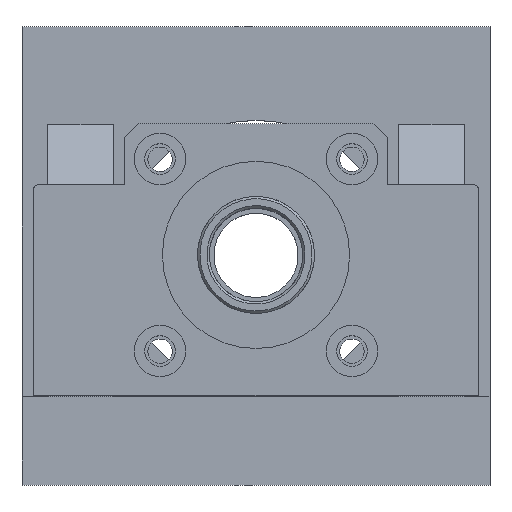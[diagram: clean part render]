
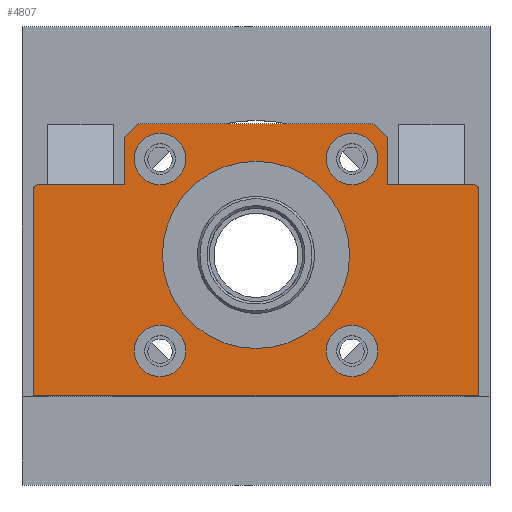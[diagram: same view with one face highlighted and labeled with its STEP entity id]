
A CAD part, top view. The second image highlights one B-rep face of the part: STEP entity #4807.
In plain terms, the highlighted planar face has unit normal (0, 0, 1).
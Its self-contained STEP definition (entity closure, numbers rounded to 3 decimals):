
#2599=DIRECTION('',(1.,0.,0.));
#2600=VECTOR('',#2599,18.5);
#2601=CARTESIAN_POINT('',(-46.5,15.,252.));
#2602=LINE('',#2601,#2600);
#2603=DIRECTION('',(0.,1.,0.));
#2604=VECTOR('',#2603,10.);
#2605=CARTESIAN_POINT('',(-28.,15.,252.));
#2606=LINE('',#2605,#2604);
#2607=DIRECTION('',(0.707,0.707,0.));
#2608=VECTOR('',#2607,4.243);
#2609=CARTESIAN_POINT('',(-28.,25.,252.));
#2610=LINE('',#2609,#2608);
#2611=DIRECTION('',(1.,0.,0.));
#2612=VECTOR('',#2611,50.);
#2613=CARTESIAN_POINT('',(-25.,28.,252.));
#2614=LINE('',#2613,#2612);
#2615=DIRECTION('',(0.707,-0.707,0.));
#2616=VECTOR('',#2615,4.243);
#2617=CARTESIAN_POINT('',(25.,28.,252.));
#2618=LINE('',#2617,#2616);
#2619=DIRECTION('',(0.,-1.,0.));
#2620=VECTOR('',#2619,10.);
#2621=CARTESIAN_POINT('',(28.,25.,252.));
#2622=LINE('',#2621,#2620);
#2623=DIRECTION('',(1.,0.,0.));
#2624=VECTOR('',#2623,18.5);
#2625=CARTESIAN_POINT('',(28.,15.,252.));
#2626=LINE('',#2625,#2624);
#2627=CARTESIAN_POINT('',(46.5,14.,252.));
#2628=DIRECTION('',(0.,0.,-1.));
#2629=DIRECTION('',(0.,1.,0.));
#2630=AXIS2_PLACEMENT_3D('',#2627,#2628,#2629);
#2632=DIRECTION('',(0.,-1.,0.));
#2633=VECTOR('',#2632,44.);
#2634=CARTESIAN_POINT('',(47.5,14.,252.));
#2635=LINE('',#2634,#2633);
#2636=DIRECTION('',(-1.,0.,0.));
#2637=VECTOR('',#2636,95.);
#2638=CARTESIAN_POINT('',(47.5,-30.,252.));
#2639=LINE('',#2638,#2637);
#2640=DIRECTION('',(0.,1.,0.));
#2641=VECTOR('',#2640,44.);
#2642=CARTESIAN_POINT('',(-47.5,-30.,252.));
#2643=LINE('',#2642,#2641);
#2644=CARTESIAN_POINT('',(-46.5,14.,252.));
#2645=DIRECTION('',(0.,0.,-1.));
#2646=DIRECTION('',(-1.,0.,0.));
#2647=AXIS2_PLACEMENT_3D('',#2644,#2645,#2646);
#2649=CARTESIAN_POINT('',(-20.506,-20.506,252.));
#2650=DIRECTION('',(0.,0.,1.));
#2651=DIRECTION('',(-1.,0.,0.));
#2652=AXIS2_PLACEMENT_3D('',#2649,#2650,#2651);
#2654=CARTESIAN_POINT('',(-20.506,-20.506,252.));
#2655=DIRECTION('',(0.,0.,1.));
#2656=DIRECTION('',(1.,0.,0.));
#2657=AXIS2_PLACEMENT_3D('',#2654,#2655,#2656);
#2659=CARTESIAN_POINT('',(-20.506,20.506,252.));
#2660=DIRECTION('',(0.,0.,1.));
#2661=DIRECTION('',(-1.,0.,0.));
#2662=AXIS2_PLACEMENT_3D('',#2659,#2660,#2661);
#2664=CARTESIAN_POINT('',(-20.506,20.506,252.));
#2665=DIRECTION('',(0.,0.,1.));
#2666=DIRECTION('',(1.,0.,0.));
#2667=AXIS2_PLACEMENT_3D('',#2664,#2665,#2666);
#2669=CARTESIAN_POINT('',(20.506,-20.506,252.));
#2670=DIRECTION('',(0.,0.,1.));
#2671=DIRECTION('',(-1.,0.,0.));
#2672=AXIS2_PLACEMENT_3D('',#2669,#2670,#2671);
#2674=CARTESIAN_POINT('',(20.506,-20.506,252.));
#2675=DIRECTION('',(0.,0.,1.));
#2676=DIRECTION('',(1.,0.,0.));
#2677=AXIS2_PLACEMENT_3D('',#2674,#2675,#2676);
#2679=CARTESIAN_POINT('',(0.,0.,252.));
#2680=DIRECTION('',(0.,0.,1.));
#2681=DIRECTION('',(-1.,0.,0.));
#2682=AXIS2_PLACEMENT_3D('',#2679,#2680,#2681);
#2684=CARTESIAN_POINT('',(0.,0.,252.));
#2685=DIRECTION('',(0.,0.,1.));
#2686=DIRECTION('',(1.,0.,0.));
#2687=AXIS2_PLACEMENT_3D('',#2684,#2685,#2686);
#2689=CARTESIAN_POINT('',(20.506,20.506,252.));
#2690=DIRECTION('',(0.,0.,1.));
#2691=DIRECTION('',(-1.,0.,0.));
#2692=AXIS2_PLACEMENT_3D('',#2689,#2690,#2691);
#2694=CARTESIAN_POINT('',(20.506,20.506,252.));
#2695=DIRECTION('',(0.,0.,1.));
#2696=DIRECTION('',(1.,0.,0.));
#2697=AXIS2_PLACEMENT_3D('',#2694,#2695,#2696);
#3466=CARTESIAN_POINT('',(-47.5,-30.,252.));
#3467=VERTEX_POINT('',#3466);
#3468=CARTESIAN_POINT('',(47.5,-30.,252.));
#3469=VERTEX_POINT('',#3468);
#3676=CARTESIAN_POINT('',(47.5,14.,252.));
#3677=VERTEX_POINT('',#3676);
#3678=CARTESIAN_POINT('',(-46.5,15.,252.));
#3679=CARTESIAN_POINT('',(-28.,15.,252.));
#3680=VERTEX_POINT('',#3678);
#3681=VERTEX_POINT('',#3679);
#3682=CARTESIAN_POINT('',(-28.,25.,252.));
#3683=VERTEX_POINT('',#3682);
#3684=CARTESIAN_POINT('',(-25.,28.,252.));
#3685=VERTEX_POINT('',#3684);
#3686=CARTESIAN_POINT('',(25.,28.,252.));
#3687=VERTEX_POINT('',#3686);
#3688=CARTESIAN_POINT('',(28.,25.,252.));
#3689=VERTEX_POINT('',#3688);
#3690=CARTESIAN_POINT('',(28.,15.,252.));
#3691=VERTEX_POINT('',#3690);
#3692=CARTESIAN_POINT('',(46.5,15.,252.));
#3693=VERTEX_POINT('',#3692);
#3694=CARTESIAN_POINT('',(-47.5,14.,252.));
#3695=VERTEX_POINT('',#3694);
#3696=CARTESIAN_POINT('',(-26.006,-20.506,252.));
#3697=CARTESIAN_POINT('',(-15.006,-20.506,252.));
#3698=VERTEX_POINT('',#3696);
#3699=VERTEX_POINT('',#3697);
#3700=CARTESIAN_POINT('',(-26.006,20.506,252.));
#3701=CARTESIAN_POINT('',(-15.006,20.506,252.));
#3702=VERTEX_POINT('',#3700);
#3703=VERTEX_POINT('',#3701);
#3704=CARTESIAN_POINT('',(15.006,-20.506,252.));
#3705=CARTESIAN_POINT('',(26.006,-20.506,252.));
#3706=VERTEX_POINT('',#3704);
#3707=VERTEX_POINT('',#3705);
#3708=CARTESIAN_POINT('',(-20.,0.,252.));
#3709=CARTESIAN_POINT('',(20.,0.,252.));
#3710=VERTEX_POINT('',#3708);
#3711=VERTEX_POINT('',#3709);
#3712=CARTESIAN_POINT('',(15.006,20.506,252.));
#3713=CARTESIAN_POINT('',(26.006,20.506,252.));
#3714=VERTEX_POINT('',#3712);
#3715=VERTEX_POINT('',#3713);
#4748=CARTESIAN_POINT('',(0.,0.,252.));
#4749=DIRECTION('',(0.,0.,1.));
#4750=DIRECTION('',(-1.,0.,0.));
#4751=AXIS2_PLACEMENT_3D('',#4748,#4749,#4750);
#4752=PLANE('',#4751);
#4754=ORIENTED_EDGE('',*,*,#4753,.T.);
#4756=ORIENTED_EDGE('',*,*,#4755,.T.);
#4758=ORIENTED_EDGE('',*,*,#4757,.T.);
#4760=ORIENTED_EDGE('',*,*,#4759,.T.);
#4762=ORIENTED_EDGE('',*,*,#4761,.T.);
#4764=ORIENTED_EDGE('',*,*,#4763,.T.);
#4766=ORIENTED_EDGE('',*,*,#4765,.T.);
#4768=ORIENTED_EDGE('',*,*,#4767,.T.);
#4769=ORIENTED_EDGE('',*,*,#4741,.T.);
#4770=ORIENTED_EDGE('',*,*,#3953,.T.);
#4772=ORIENTED_EDGE('',*,*,#4771,.T.);
#4774=ORIENTED_EDGE('',*,*,#4773,.T.);
#4775=EDGE_LOOP('',(#4754,#4756,#4758,#4760,#4762,#4764,#4766,#4768,#4769,#4770,
#4772,#4774));
#4776=FACE_OUTER_BOUND('',#4775,.F.);
#4778=ORIENTED_EDGE('',*,*,#4777,.T.);
#4780=ORIENTED_EDGE('',*,*,#4779,.T.);
#4781=EDGE_LOOP('',(#4778,#4780));
#4782=FACE_BOUND('',#4781,.F.);
#4784=ORIENTED_EDGE('',*,*,#4783,.T.);
#4786=ORIENTED_EDGE('',*,*,#4785,.T.);
#4787=EDGE_LOOP('',(#4784,#4786));
#4788=FACE_BOUND('',#4787,.F.);
#4790=ORIENTED_EDGE('',*,*,#4789,.T.);
#4792=ORIENTED_EDGE('',*,*,#4791,.T.);
#4793=EDGE_LOOP('',(#4790,#4792));
#4794=FACE_BOUND('',#4793,.F.);
#4796=ORIENTED_EDGE('',*,*,#4795,.T.);
#4798=ORIENTED_EDGE('',*,*,#4797,.T.);
#4799=EDGE_LOOP('',(#4796,#4798));
#4800=FACE_BOUND('',#4799,.F.);
#4802=ORIENTED_EDGE('',*,*,#4801,.T.);
#4804=ORIENTED_EDGE('',*,*,#4803,.T.);
#4805=EDGE_LOOP('',(#4802,#4804));
#4806=FACE_BOUND('',#4805,.F.);
#2631=CIRCLE('',#2630,1.);
#2648=CIRCLE('',#2647,1.);
#2653=CIRCLE('',#2652,5.5);
#2658=CIRCLE('',#2657,5.5);
#2663=CIRCLE('',#2662,5.5);
#2668=CIRCLE('',#2667,5.5);
#2673=CIRCLE('',#2672,5.5);
#2678=CIRCLE('',#2677,5.5);
#2683=CIRCLE('',#2682,20.);
#2688=CIRCLE('',#2687,20.);
#2693=CIRCLE('',#2692,5.5);
#2698=CIRCLE('',#2697,5.5);
#3953=EDGE_CURVE('',#3469,#3467,#2639,.T.);
#4741=EDGE_CURVE('',#3677,#3469,#2635,.T.);
#4753=EDGE_CURVE('',#3680,#3681,#2602,.T.);
#4755=EDGE_CURVE('',#3681,#3683,#2606,.T.);
#4757=EDGE_CURVE('',#3683,#3685,#2610,.T.);
#4759=EDGE_CURVE('',#3685,#3687,#2614,.T.);
#4761=EDGE_CURVE('',#3687,#3689,#2618,.T.);
#4763=EDGE_CURVE('',#3689,#3691,#2622,.T.);
#4765=EDGE_CURVE('',#3691,#3693,#2626,.T.);
#4767=EDGE_CURVE('',#3693,#3677,#2631,.T.);
#4771=EDGE_CURVE('',#3467,#3695,#2643,.T.);
#4773=EDGE_CURVE('',#3695,#3680,#2648,.T.);
#4777=EDGE_CURVE('',#3698,#3699,#2653,.T.);
#4779=EDGE_CURVE('',#3699,#3698,#2658,.T.);
#4783=EDGE_CURVE('',#3702,#3703,#2663,.T.);
#4785=EDGE_CURVE('',#3703,#3702,#2668,.T.);
#4789=EDGE_CURVE('',#3706,#3707,#2673,.T.);
#4791=EDGE_CURVE('',#3707,#3706,#2678,.T.);
#4795=EDGE_CURVE('',#3710,#3711,#2683,.T.);
#4797=EDGE_CURVE('',#3711,#3710,#2688,.T.);
#4801=EDGE_CURVE('',#3714,#3715,#2693,.T.);
#4803=EDGE_CURVE('',#3715,#3714,#2698,.T.);
#4807=ADVANCED_FACE('',(#4776,#4782,#4788,#4794,#4800,#4806),#4752,.T.);
